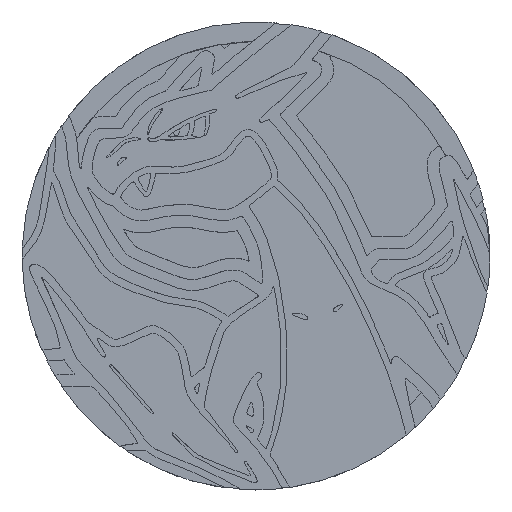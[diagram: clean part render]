
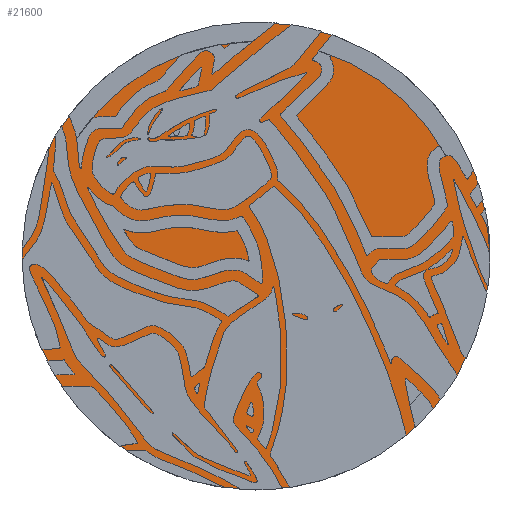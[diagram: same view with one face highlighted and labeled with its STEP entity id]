
A CAD part, top view. The second image highlights one B-rep face of the part: STEP entity #21600.
In plain terms, the highlighted planar face has unit normal (0, 0, 1).
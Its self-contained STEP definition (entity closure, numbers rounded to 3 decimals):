
#161=CIRCLE('',#22459,15.);
#365=PLANE('',#22458);
#1108=FACE_OUTER_BOUND('',#2348,.T.);
#2348=EDGE_LOOP('',(#16835));
#8737=VERTEX_POINT('',#35513);
#11606=EDGE_CURVE('',#8737,#8737,#161,.T.);
#16835=ORIENTED_EDGE('',*,*,#11606,.F.);
#21600=ADVANCED_FACE('',(#1108),#365,.T.);
#22458=AXIS2_PLACEMENT_3D('',#35512,#23618,#23619);
#22459=AXIS2_PLACEMENT_3D('',#35514,#23620,#23621);
#23618=DIRECTION('center_axis',(0.,0.,1.));
#23619=DIRECTION('ref_axis',(1.,0.,0.));
#23620=DIRECTION('center_axis',(0.,0.,-1.));
#23621=DIRECTION('ref_axis',(1.,0.,0.));
#35512=CARTESIAN_POINT('Origin',(15.,-15.,1.16));
#35513=CARTESIAN_POINT('',(0.,-15.,1.16));
#35514=CARTESIAN_POINT('Origin',(15.,-15.,1.16));
